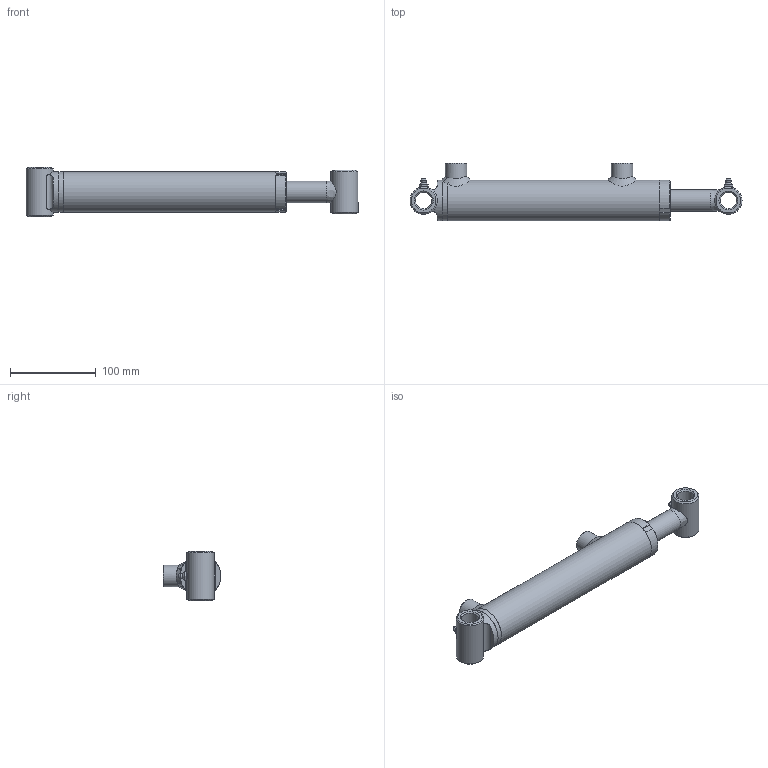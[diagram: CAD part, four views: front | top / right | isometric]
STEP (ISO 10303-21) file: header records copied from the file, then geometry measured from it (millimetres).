
FILE_DESCRIPTION(/* description */ (''),/* implementation_level */ '2;1');
FILE_NAME(/* name */ 'C:\01 - Philip\00 - Philip Rivard\01 - Contracts\Eagle Hydraulic Components\00 - 3D Cylinder\HBU1506-ORB\HBU1506-ORB.stp',/* time_stamp */ '2015-02-19T18:44:23-05:00',/* author */ ('Philip Rivard'),/* organization */ (''),/* preprocessor_version */ 'ST-DEVELOPER v15.6',/* originating_system */ 'Autodesk Inventor 2015',/* authorisation */ '');
FILE_SCHEMA (('AUTOMOTIVE_DESIGN { 1 0 10303 214 3 1 1 }'));
Length unit declared in the file: inch
Products named in the file (12): Tube_HBU_Welds; Tube; Straight_Port; ECP-15-HBU; Tube_HBU; Gland; Rod_HBU_Welds; Rod; Bushing; Rod_HBU; Grease Fitting 1-8; Cylinder_Assembly
Bounding box: 387.35 x 67.62 x 57.2 mm (x, y, z)
Volume: 440001.7 mm3; surface area: 144069.7 mm2
Topology: 12 solids, 12 shells, 206 faces, 458 edges, 279 vertices
Faces by surface type: cone 65, plane 59, cylinder 53, torus 15, bspline 12, sphere 2
Full cylindrical faces by diameter (mm): 4 x2, 5 x1, 7.5 x2, 8 x2, 10 x2, 12.751 x2, 19.05 x2, 19.3 x2, 19.65 x1, 19.9 x1, 22 x1, 25 x4, 25.4 x2, 31.75 x2, 31.8 x1, 35 x1, 37.897 x1, 38.05 x1, 38.1 x1, 40 x1, 42 x2, 43 x1, 47.6 x1, 47.625 x1
Entity records: 6309 total; most frequent: CARTESIAN_POINT 2926, DIRECTION 666, ORIENTED_EDGE 538, AXIS2_PLACEMENT_3D 305, EDGE_LOOP 276, EDGE_CURVE 269, VERTEX_POINT 205, ADVANCED_FACE 166
